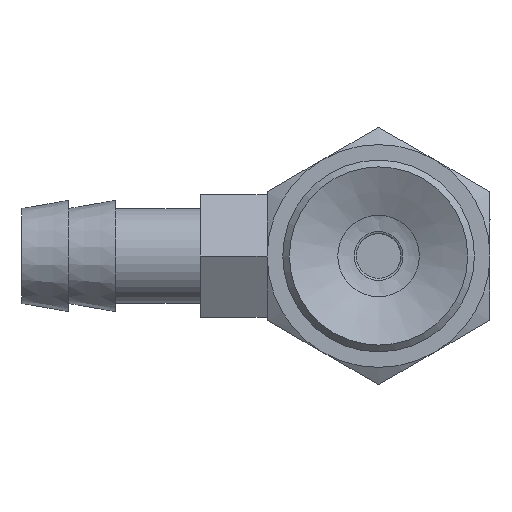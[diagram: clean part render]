
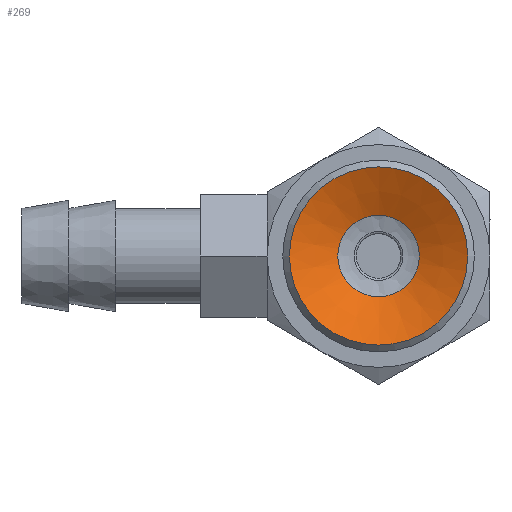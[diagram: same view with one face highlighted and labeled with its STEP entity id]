
A CAD part, front view. The second image highlights one B-rep face of the part: STEP entity #269.
In plain terms, the highlighted conical face has half-angle 65 degrees and reference radius 1.427 mm.
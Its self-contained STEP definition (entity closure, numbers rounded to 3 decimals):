
#269=ADVANCED_FACE('',(#433,#434),#435,.F.);
#433=FACE_BOUND('',#624,.T.);
#434=FACE_OUTER_BOUND('',#625,.T.);
#435=CONICAL_SURFACE('',#626,1.427,1.134);
#624=EDGE_LOOP('',(#1067));
#625=EDGE_LOOP('',(#1068));
#626=AXIS2_PLACEMENT_3D('',#1069,#1070,#1071);
#1067=ORIENTED_EDGE('',*,*,#1235,.T.);
#1068=ORIENTED_EDGE('',*,*,#1230,.T.);
#1069=CARTESIAN_POINT('',(0.0,7.096,0.));
#1070=DIRECTION('',(-0.0,-1.0,0.));
#1071=DIRECTION('',(0.0,0.,-1.0));
#1230=EDGE_CURVE('',#1408,#1408,#1409,.T.);
#1235=EDGE_CURVE('',#1418,#1418,#1419,.T.);
#1408=VERTEX_POINT('',#1898);
#1409=CIRCLE('',#1899,4.0);
#1418=VERTEX_POINT('',#1908);
#1419=CIRCLE('',#1909,1.828);
#1898=CARTESIAN_POINT('',(0.0,5.896,-4.0));
#1899=AXIS2_PLACEMENT_3D('',#2080,#2081,#2082);
#1908=CARTESIAN_POINT('',(0.0,6.909,-1.828));
#1909=AXIS2_PLACEMENT_3D('',#2095,#2096,#2097);
#2080=CARTESIAN_POINT('',(0.0,5.896,0.0));
#2081=DIRECTION('',(0.0,-1.0,0.));
#2082=DIRECTION('',(0.0,0.,-1.0));
#2095=CARTESIAN_POINT('',(0.0,6.909,0.0));
#2096=DIRECTION('',(0.0,1.0,0.));
#2097=DIRECTION('',(0.0,0.,-1.0));
